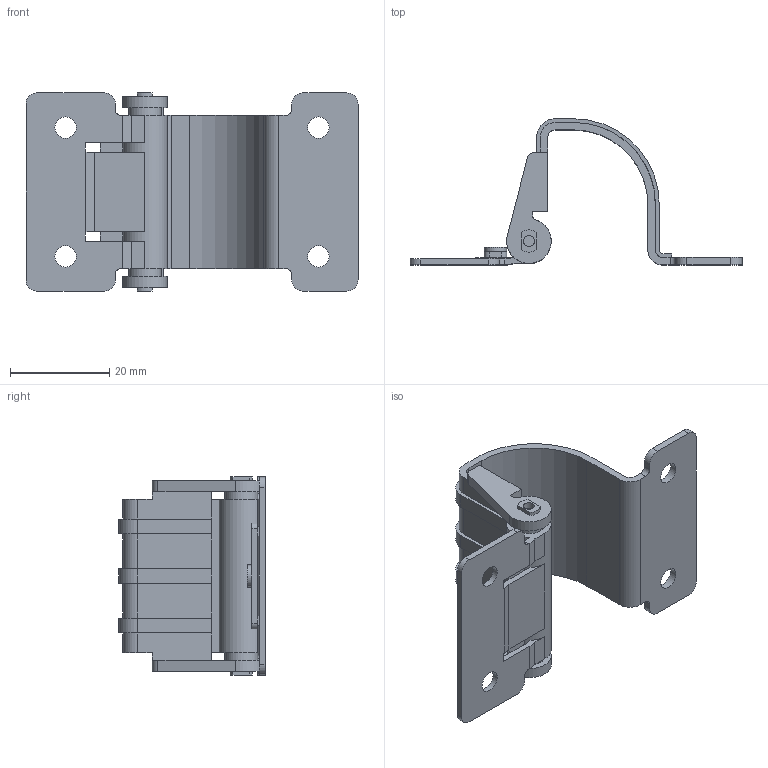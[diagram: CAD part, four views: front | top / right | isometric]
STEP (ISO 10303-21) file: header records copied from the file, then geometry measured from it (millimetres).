
FILE_DESCRIPTION( ( 'STEP AP214' ), '1' );
FILE_NAME( '//expscmdclustefs.cadenas.external/client_exchange/iodir/jobs/output/wkb77193634_no0/STEP/HG-TU03_2_14a.stp', ' ', ( ' ' ), ( ' ' ), 'PSStep 15.0.47', 'PARTsolutions', ' ' );
FILE_SCHEMA( ( 'AUTOMOTIVE_DESIGN { 1 0 10303 214 1 1 1 1 }' ) );
Length unit declared in the file: millimetre
Products named in the file (3): HG-TU03; _HG-TU03-B; _HG-TU03-Body
Assembly tree (2 placements, depth 2):
  HG-TU03
    _HG-TU03-B
    _HG-TU03-Body
Bounding box: 67 x 29.5 x 40 mm (x, y, z)
Volume: 7876.5 mm3; surface area: 11095.4 mm2
Topology: 2 solids, 2 shells, 162 faces, 469 edges, 308 vertices
Faces by surface type: plane 102, cylinder 60
Full cylindrical faces by diameter (mm): 2.25 x2, 4.3 x4, 4.5 x1, 6.6 x2, 9 x1
Entity records: 6620 total; most frequent: CARTESIAN_POINT 921, DIRECTION 908, ORIENTED_EDGE 906, EDGE_CURVE 453, LINE 328, VECTOR 328, VERTEX_POINT 303, AXIS2_PLACEMENT_3D 290
